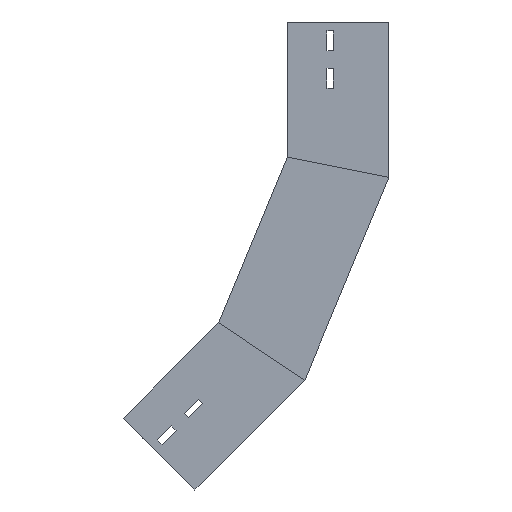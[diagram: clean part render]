
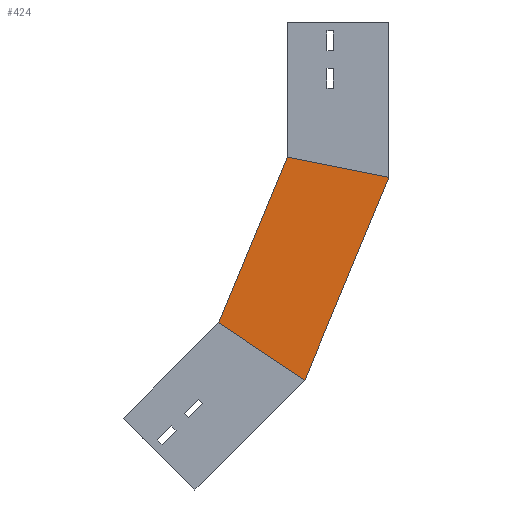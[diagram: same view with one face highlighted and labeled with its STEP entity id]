
A CAD part, left-side view. The second image highlights one B-rep face of the part: STEP entity #424.
In plain terms, the highlighted planar face has unit normal (-1, 0, 0) as drawn and (1, 0, 0) by its records, which use the part's own axes.
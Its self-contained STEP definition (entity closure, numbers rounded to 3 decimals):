
#73 = CARTESIAN_POINT ( 'NONE',  ( 0., 0., -172.1 ) ) ;
#176 = VECTOR ( 'NONE', #180, 1000. ) ;
#180 = DIRECTION ( 'NONE',  ( 0., -0.981, -0.195 ) ) ;
#199 = LINE ( 'NONE', #756, #499 ) ;
#275 = VERTEX_POINT ( 'NONE', #283 ) ;
#283 = CARTESIAN_POINT ( 'NONE',  ( 0., 112.5, -149.722 ) ) ;
#303 = LINE ( 'NONE', #73, #1112 ) ;
#304 = DIRECTION ( 'NONE',  ( 0., 0., 1. ) ) ;
#323 = CARTESIAN_POINT ( 'NONE',  ( 0., 93.03, -396.695 ) ) ;
#331 = PLANE ( 'NONE',  #504 ) ;
#400 = CARTESIAN_POINT ( 'NONE',  ( 0., 132.464, -370.346 ) ) ;
#424 = ADVANCED_FACE ( 'NONE', ( #895 ), #331, .F. ) ;
#428 = VERTEX_POINT ( 'NONE', #1250 ) ;
#499 = VECTOR ( 'NONE', #1125, 1000. ) ;
#504 = AXIS2_PLACEMENT_3D ( 'NONE', #1356, #1482, #304 ) ;
#524 = DIRECTION ( 'NONE',  ( 0., 0.383, -0.924 ) ) ;
#659 = EDGE_CURVE ( 'NONE', #275, #1427, #802, .T. ) ;
#668 = EDGE_LOOP ( 'NONE', ( #820, #849, #827, #1091 ) ) ;
#688 = CARTESIAN_POINT ( 'NONE',  ( 0., 0., -172.1 ) ) ;
#756 = CARTESIAN_POINT ( 'NONE',  ( 0., 103.936, -129.048 ) ) ;
#802 = LINE ( 'NONE', #1260, #176 ) ;
#820 = ORIENTED_EDGE ( 'NONE', *, *, #1256, .F. ) ;
#827 = ORIENTED_EDGE ( 'NONE', *, *, #913, .T. ) ;
#842 = LINE ( 'NONE', #400, #1329 ) ;
#849 = ORIENTED_EDGE ( 'NONE', *, *, #659, .T. ) ;
#857 = DIRECTION ( 'NONE',  ( 0., -0.831, -0.556 ) ) ;
#895 = FACE_OUTER_BOUND ( 'NONE', #668, .T. ) ;
#913 = EDGE_CURVE ( 'NONE', #1427, #1326, #303, .T. ) ;
#1091 = ORIENTED_EDGE ( 'NONE', *, *, #1131, .F. ) ;
#1112 = VECTOR ( 'NONE', #524, 1000. ) ;
#1125 = DIRECTION ( 'NONE',  ( 0., 0.383, -0.924 ) ) ;
#1131 = EDGE_CURVE ( 'NONE', #428, #1326, #842, .T. ) ;
#1250 = CARTESIAN_POINT ( 'NONE',  ( 0., 188.403, -332.969 ) ) ;
#1256 = EDGE_CURVE ( 'NONE', #275, #428, #199, .T. ) ;
#1260 = CARTESIAN_POINT ( 'NONE',  ( 0., 32.93, -165.55 ) ) ;
#1326 = VERTEX_POINT ( 'NONE', #323 ) ;
#1329 = VECTOR ( 'NONE', #857, 1000. ) ;
#1356 = CARTESIAN_POINT ( 'NONE',  ( 0., 0., -172.1 ) ) ;
#1427 = VERTEX_POINT ( 'NONE', #688 ) ;
#1482 = DIRECTION ( 'NONE',  ( -1., 0., 0. ) ) ;
